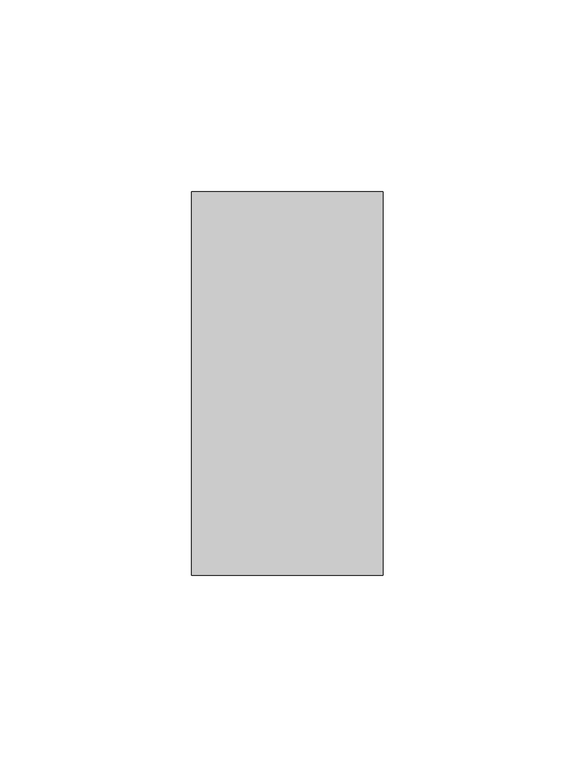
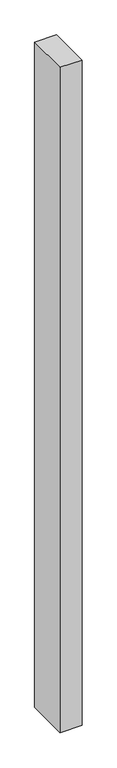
"""IFC4 building model written with IfcOpenShell, lengths in millimetres: member geometry, Прямоугольный импост : 50х100."""

from ifc_helpers import new_model, si_unit, frame, origin, place, context, project, spatial, polyline, outline, extrude, source, transform, mapped, element, save


def member_9443a213(model_context):
    return source(origin(), model_context, "Body", "SweptSolid", [
        extrude(outline(polyline([(0.0, 50.0), (0.0, -50.0), (-50.0, -50.0), (-50.0, 50.0), (0.0, 50.0)])), frame((0.0, 0.0, -1600.0), z_axis=(0.0, 0.0, 1.0), x_axis=(1.0, 0.0, 0.0)), (0.0, 0.0, 1.0), 1600.0),
    ])


if __name__ == "__main__":
    model = new_model("IFC4")
    model_context = context("Model", 3, world=origin())
    ifc_project = project(units=[si_unit("LENGTHUNIT", "METRE", prefix="MILLI")], contexts=[model_context])
    site = spatial("IfcSite", under=ifc_project)
    building = spatial("IfcBuilding", under=site)
    placement = place(None, origin())
    member_shape = member_9443a213(model_context)
    element("IfcMember", 1, ObjectType="Прямоугольный импост : 50х100", at=placement, inside=building, context=model_context, shape_type="MappedRepresentation", body=[
        mapped(member_shape, transform((0.0, 0.0, 0.0), x_axis=(1.0, 0.0, 0.0), y_axis=(0.0, 1.0, 0.0), z_axis=(0.0, 0.0, 1.0))),
    ])
    save(model, "model.ifc")
